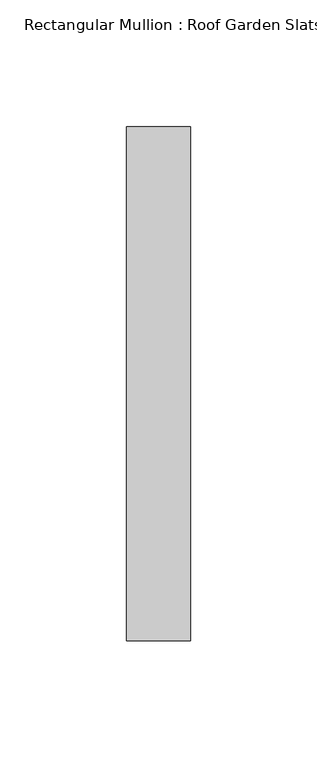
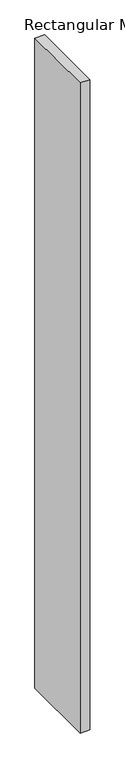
"""IFC4 building model written with IfcOpenShell, lengths in millimetres: member geometry, Rectangular Mullion : Roof Garden Slats."""

from ifc_helpers import new_model, si_unit, frame, origin, place, context, project, spatial, polyline, outline, extrude, source, transform, mapped, element, save


def rectangular_mullion_roof_garden_slats_93ba25cf(model_context):
    return source(origin(), model_context, "Body", "SweptSolid", [
        extrude(outline(polyline([(12.7, 139.7), (12.7, -63.5), (-12.7, -63.5), (-12.7, 139.7), (12.7, 139.7)])), frame((0.0, 0.0, -1786.7996306), z_axis=(0.0, 0.0, 1.0), x_axis=(1.0, 0.0, 0.0)), (0.0, 0.0, 1.0), 1786.7996306),
    ])


if __name__ == "__main__":
    model = new_model("IFC4")
    model_context = context("Model", 3, world=origin())
    ifc_project = project(units=[si_unit("LENGTHUNIT", "METRE", prefix="MILLI")], contexts=[model_context])
    site = spatial("IfcSite", under=ifc_project)
    building = spatial("IfcBuilding", under=site)
    placement = place(None, origin())
    rectangular_mullion_roof_garden_slats_shape = rectangular_mullion_roof_garden_slats_93ba25cf(model_context)
    element("IfcMember", 1, ObjectType="Rectangular Mullion : Roof Garden Slats", at=placement, inside=building, context=model_context, shape_type="MappedRepresentation", body=[
        mapped(rectangular_mullion_roof_garden_slats_shape, transform((0.0, 0.0, 0.0), x_axis=(1.0, 0.0, 0.0), y_axis=(0.0, 1.0, 0.0), z_axis=(0.0, 0.0, 1.0))),
    ])
    save(model, "model.ifc")
